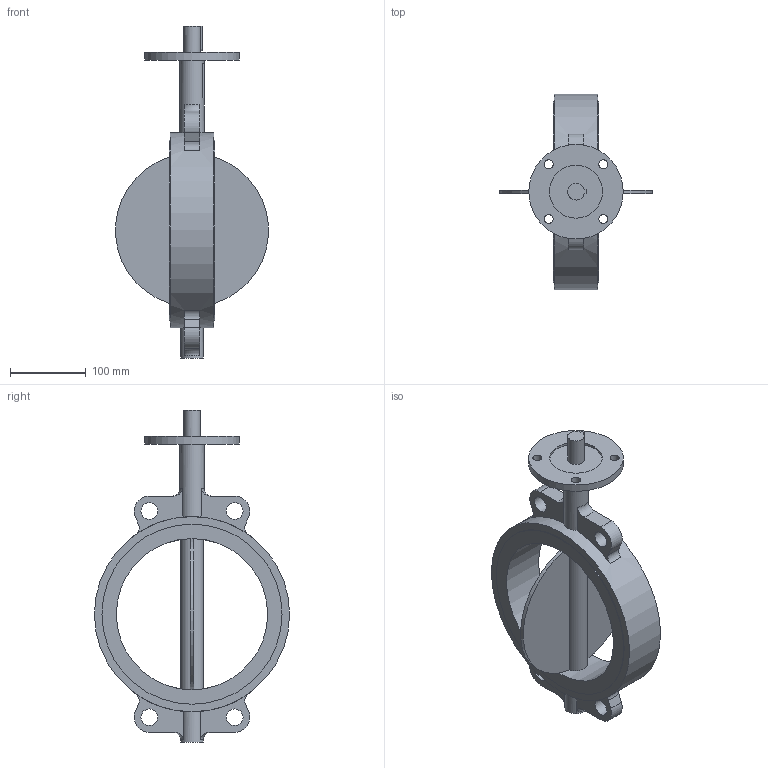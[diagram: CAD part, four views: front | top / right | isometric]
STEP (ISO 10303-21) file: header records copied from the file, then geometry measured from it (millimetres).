
FILE_DESCRIPTION(('STEP AP203'), '1');
FILE_NAME('青蜮铕 017W.Y_DN200_PN10', '', ('UNSPECIFIED'), ('UNSPECIFIED'), 'ASCON STEP Converter 1.6', 'ASCON Math Kernel', '');
FILE_SCHEMA(('CONFIG_CONTROL_DESIGN'));
Length unit declared in the file: millimetre
Bounding box: 201.71 x 258.2 x 439 mm (x, y, z)
Volume: 1879589.4 mm3; surface area: 263995.3 mm2
Topology: 1 solids, 1 shells, 90 faces, 229 edges, 152 vertices
Faces by surface type: plane 48, cylinder 38, torus 4
Full cylindrical faces by diameter (mm): 12 x4, 22 x4, 22.1 x1, 30 x1, 32 x1, 70 x1, 125 x1, 200 x1, 238.2 x2, 258.2 x1
Entity records: 4874 total; most frequent: CARTESIAN_POINT 1911, DIRECTION 462, ORIENTED_EDGE 424, EDGE_CURVE 212, AXIS2_PLACEMENT_3D 181, VERTEX_POINT 152, EDGE_LOOP 138, FACE_BOUND 107
